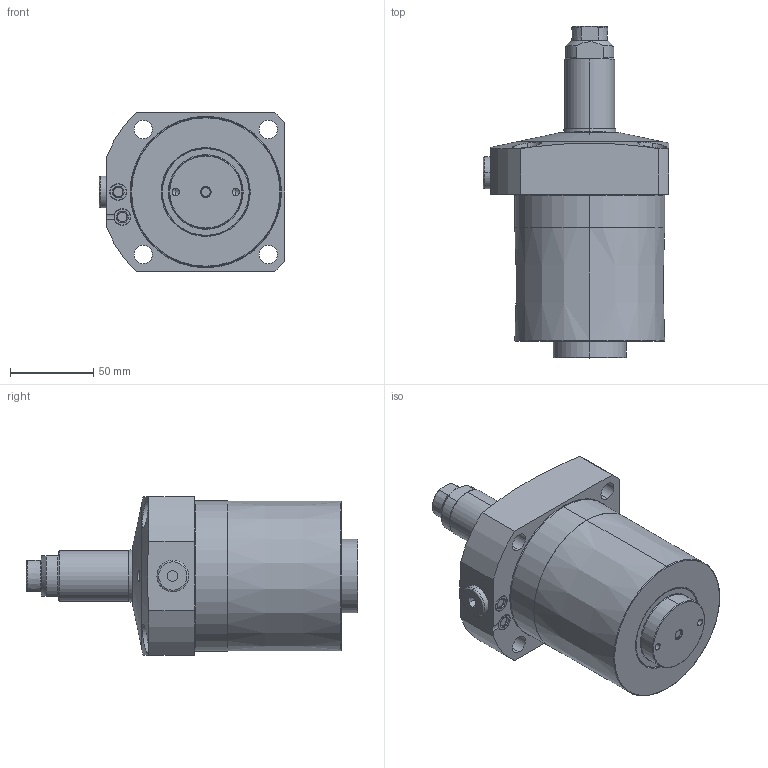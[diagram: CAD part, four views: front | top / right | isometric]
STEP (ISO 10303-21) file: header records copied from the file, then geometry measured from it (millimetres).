
FILE_DESCRIPTION(/* description */ (''),/* implementation_level */ '2;1');
FILE_NAME(/* name */ 'KFSS90-Q.stp',/* time_stamp */ '2026-02-06T10:36:33+08:00',/* author */ (''),/* organization */ (''),/* preprocessor_version */ 'ST-DEVELOPER v16.7',/* originating_system */ 'SIEMENS PLM Software NX 12.0',/* authorisation */ '');
FILE_SCHEMA (('AUTOMOTIVE_DESIGN { 1 0 10303 214 3 1 1 1 }'));
Length unit declared in the file: millimetre
Products named in the file (9): XLC-M16_o-ring; XLC-M16_contactbolt; KFSS90-Q-02; KFSS90-Q-01; KFSS90-Q-04-P7; KFSS90-Q-04; KFSS90-Q-05-P7; KFSS90-Q-03; LC0903-C-EQ_step
Assembly tree (8 placements, depth 3):
  LC0903-C-EQ_step
    KFSS90-Q-03
      XLC-M16_contactbolt
      XLC-M16_o-ring
    KFSS90-Q-05-P7
    KFSS90-Q-04
    KFSS90-Q-04-P7
    KFSS90-Q-01
    KFSS90-Q-02
Bounding box: 111.5 x 199 x 95 mm (x, y, z)
Volume: 883670.4 mm3; surface area: 77512.3 mm2
Topology: 7 solids, 7 shells, 252 faces, 554 edges, 332 vertices
Faces by surface type: cylinder 77, torus 65, plane 55, cone 53, bspline 2
Entity records: 7590 total; most frequent: CARTESIAN_POINT 1608, DIRECTION 1339, ORIENTED_EDGE 1088, AXIS2_PLACEMENT_3D 587, EDGE_CURVE 544, VERTEX_POINT 332, CIRCLE 328, EDGE_LOOP 292
